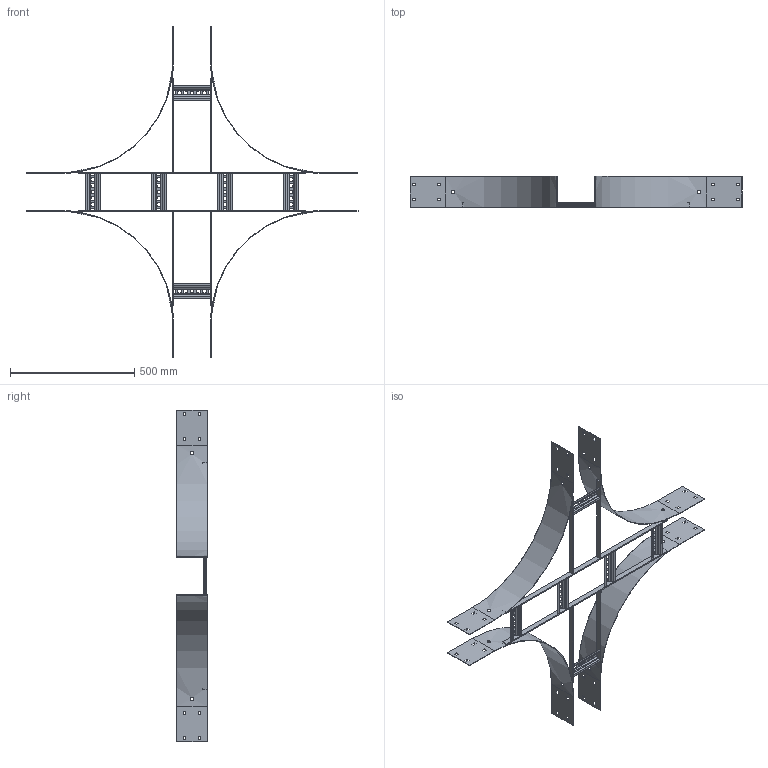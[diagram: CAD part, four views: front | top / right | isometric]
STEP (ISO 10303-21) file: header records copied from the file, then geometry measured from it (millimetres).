
FILE_DESCRIPTION (( 'STEP AP203' ), '1' );
FILE_NAME ('N3 C 1504.STEP', '2024-08-27T05:41:45', ( '' ), ( '' ), 'SwSTEP 2.0', 'SolidWorks 2023', '' );
FILE_SCHEMA (( 'CONFIG_CONTROL_DESIGN' ));
Length unit declared in the file: millimetre
Products named in the file (5): Ladder Rung_Ladder Rung -  150mm; Ladder Tee 20x5 Flat Bar_378; N3 C 1504; Ladder Tee 20x5 Flat Bar_916; N3 RADIUS PLATE_N1-450 IR
Assembly tree (16 placements, depth 2):
  N3 C 1504
    Ladder Rung_Ladder Rung -  150mm  x6
    Ladder Tee 20x5 Flat Bar_916  x2
    N3 RADIUS PLATE_N1-450 IR  x4
    Ladder Tee 20x5 Flat Bar_378  x4
Bounding box: 1335 x 124 x 1335 mm (x, y, z)
Volume: 1401164.4 mm3; surface area: 1288186.9 mm2
Topology: 16 solids, 16 shells, 632 faces, 1576 edges, 976 vertices
Faces by surface type: plane 560, cylinder 72
Entity records: 4995 total; most frequent: CARTESIAN_POINT 1007, ORIENTED_EDGE 640, DIRECTION 626, EDGE_CURVE 320, VECTOR 292, LINE 292, VERTEX_POINT 200, AXIS2_PLACEMENT_3D 167
